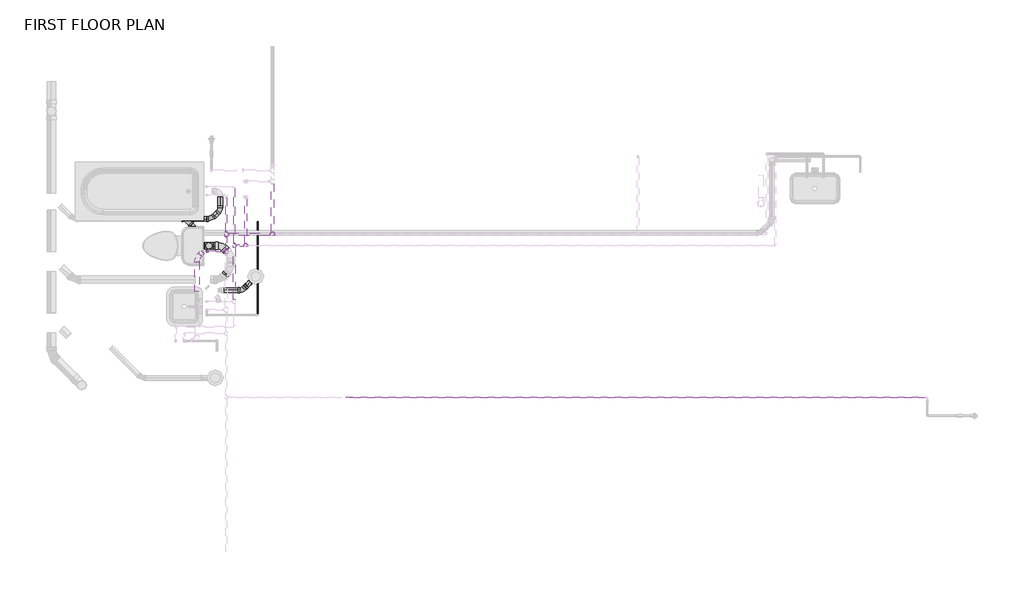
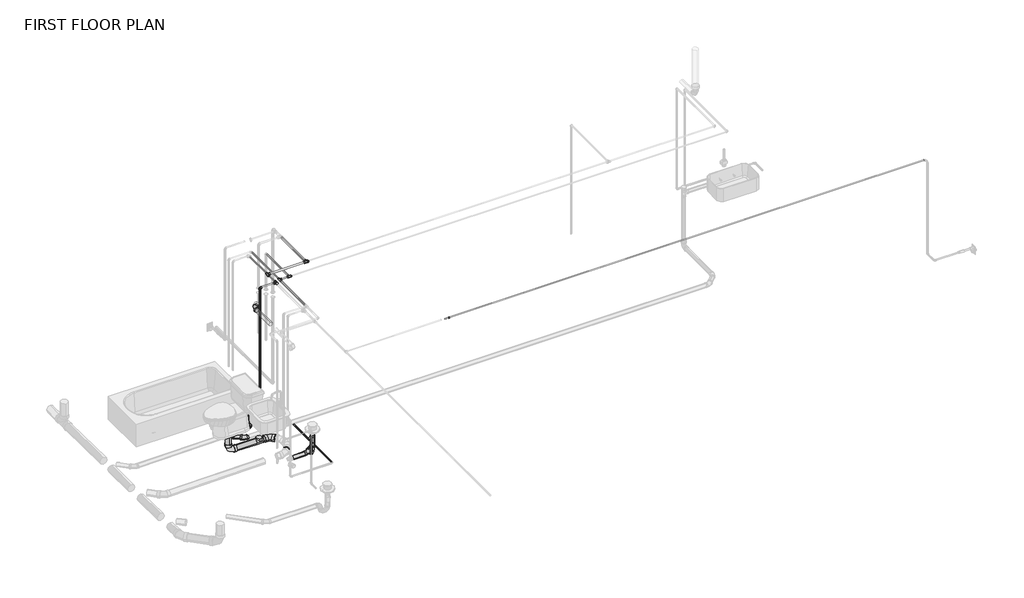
# One storey, part 3 of 5: 26 pipe segments, 25 pipe fittings.
"""IFC4 building model written with IfcOpenShell, lengths in millimetres."""

from ifc_helpers import new_model, si_unit, point, frame, frame_2d, origin, place, context, project, spatial, circle_curve, trimmed, segment, composite_curve, outline, extrude, transform, mapped, element, save
from components import bend_pvc_sch_40_dwv_standard_e97a4265, bend_pvc_sch_40_dwv_standard_846a7535, bend_pvc_sch_40_dwv_standard_24e7f7a5, bend_pvc_sch_40_dwv_standard_035f6e0a, bend_pvc_sch_40_dwv_standard_84cd9199, bend_pvc_sch_40_dwv_standard_a8c214d8, bend_pvc_sch_40_dwv_standard_9c01a1c7, coupling_generic_copper_k_c11501f2, ges_wye_45_deg_reducing_pvc_sch_40_dwv_standard_66a6b449, pipe_elbow_copper_k_feaaf02c, pipe_tee_copper_k_feafe2f1, pipe_tee_copper_k_ee363fbf, pipe_tee_copper_k_6c1f9b63, pipe_tee_copper_k_a7c92e0f, pipe_transition_copper_k_b4f16853, pipe_transition_copper_k_b63fd5dd, pipe_transition_copper_k_859ff352, standard_73d07651

model = new_model("IFC4")

# Units and contexts
model_context = context("Model", 3, world=origin())
ifc_project = project(units=[si_unit("LENGTHUNIT", "METRE", prefix="MILLI")], contexts=[model_context])

# Site, building, storey
site = spatial("IfcSite", under=ifc_project)
building = spatial("IfcBuilding", under=site)
storey = spatial("IfcBuildingStorey", under=building, Name="FIRST FLOOR PLAN", Elevation=0.0)

# Pipe fittings
placement = place(None, origin())
bend_pvc_sch_40_dwv_standard_shape = bend_pvc_sch_40_dwv_standard_e97a4265(model_context)
element("IfcPipeFitting", 1, ObjectType="Bend - PVC - Sch 40 - DWV : Standard", at=placement, inside=storey, context=model_context, shape_type="MappedRepresentation", body=[
    mapped(bend_pvc_sch_40_dwv_standard_shape, transform((-7700.2731156, 4419.0224693, -295.2395657), x_axis=(-0.9999422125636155, 1.120094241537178e-06, 0.010750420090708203), y_axis=(0.010750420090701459, -1.2042179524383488e-08, 0.9999422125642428), z_axis=(1.120158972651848e-06, 0.9999999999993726, 0.0))),
])
bend_pvc_sch_40_dwv_standard_2_shape = bend_pvc_sch_40_dwv_standard_846a7535(model_context)
element("IfcPipeFitting", 2, ObjectType="Bend - PVC - Sch 40 - DWV : Standard", at=placement, inside=storey, context=model_context, shape_type="MappedRepresentation", body=[
    mapped(bend_pvc_sch_40_dwv_standard_2_shape, transform((-7374.374464, 4262.7641737, 2055.9906219), x_axis=(-0.7071069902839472, -0.707106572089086, 0.0), y_axis=(0.7071065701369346, -0.7071069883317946, -7.430692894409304e-05), z_axis=(5.254291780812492e-05, -5.254294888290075e-05, 0.9999999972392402))),
])
bend_pvc_sch_40_dwv_standard_3_shape = bend_pvc_sch_40_dwv_standard_24e7f7a5(model_context)
element("IfcPipeFitting", 3, ObjectType="Bend - PVC - Sch 40 - DWV : Standard", at=placement, inside=storey, context=model_context, shape_type="MappedRepresentation", body=[
    mapped(bend_pvc_sch_40_dwv_standard_3_shape, transform((-7069.179854, 4886.8434835, -313.7948197), x_axis=(0.7070684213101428, 0.7070684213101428, 0.010416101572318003), y_axis=(-0.706976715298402, 0.7071447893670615, -0.01140924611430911), z_axis=(-0.015432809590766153, 0.0007031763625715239, 0.9998806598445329))),
])
bend_pvc_sch_40_dwv_standard_4_shape = bend_pvc_sch_40_dwv_standard_035f6e0a(model_context)
element("IfcPipeFitting", 4, ObjectType="Bend - PVC - Sch 40 - DWV : Standard", at=placement, inside=storey, context=model_context, shape_type="MappedRepresentation", body=[
    mapped(bend_pvc_sch_40_dwv_standard_4_shape, transform((-7186.5172749, 4769.5060626, -315.5317771), x_axis=(0.9999457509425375, 0.0, 0.010416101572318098), y_axis=(-4.7108400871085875e-05, 0.9999897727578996, 0.0045224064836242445), z_axis=(-0.010415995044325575, -0.004522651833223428, 0.9999355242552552))),
])
bend_pvc_sch_40_dwv_standard_5_shape = bend_pvc_sch_40_dwv_standard_84cd9199(model_context)
element("IfcPipeFitting", 5, ObjectType="Bend - PVC - Sch 40 - DWV : Standard", at=placement, inside=storey, context=model_context, shape_type="MappedRepresentation", body=[
    mapped(bend_pvc_sch_40_dwv_standard_5_shape, transform((-7346.2399141, 4590.6256439, -314.4174326), x_axis=(0.7069954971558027, -0.7069800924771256, 0.018344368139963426), y_axis=(0.7072180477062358, 0.7067576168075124, -0.018338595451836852), z_axis=(0.0, 0.02593877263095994, 0.9996635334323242))),
])
bend_pvc_sch_40_dwv_standard_6_shape = bend_pvc_sch_40_dwv_standard_a8c214d8(model_context)
element("IfcPipeFitting", 6, ObjectType="Bend - PVC - Sch 40 - DWV : Standard", at=placement, inside=storey, context=model_context, shape_type="MappedRepresentation", body=[
    mapped(bend_pvc_sch_40_dwv_standard_6_shape, transform((-7052.3304385, 4419.0218107, -302.1855563), x_axis=(-0.7070925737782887, 0.7071209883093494, 6.652743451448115e-08), y_axis=(-0.707042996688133, -0.7070145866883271, 0.014851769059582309), z_axis=(0.010502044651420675, 0.010501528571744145, 0.9998897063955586))),
])
bend_pvc_sch_40_dwv_standard_7_shape = bend_pvc_sch_40_dwv_standard_9c01a1c7(model_context)
element("IfcPipeFitting", 7, ObjectType="Bend - PVC - Sch 40 - DWV : Standard", at=placement, inside=storey, context=model_context, shape_type="MappedRepresentation", body=[
    mapped(bend_pvc_sch_40_dwv_standard_7_shape, transform((-6783.0539236, 3841.4516114, -300.1692535), x_axis=(0.9998117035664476, 0.0, 0.0194050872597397), y_axis=(0.00019323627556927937, 0.9999504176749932, -0.009956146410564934), z_axis=(-0.0194041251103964, 0.009958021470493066, 0.9997621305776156))),
])
coupling_generic_copper_k_shape = coupling_generic_copper_k_c11501f2(model_context)
element("IfcPipeFitting", 8, ObjectType="Coupling - Generic : Copper- K", at=placement, inside=storey, context=model_context, shape_type="MappedRepresentation", body=[
    mapped(coupling_generic_copper_k_shape, transform((-5363.4074987, 2442.6144205, 2298.2390728), x_axis=(1.0, 0.0, 0.0), y_axis=(0.0, 1.0, 0.0), z_axis=(0.0, 0.0, 1.0))),
])
ges_wye_45_deg_reducing_pvc_sch_40_dwv_standard_shape = ges_wye_45_deg_reducing_pvc_sch_40_dwv_standard_66a6b449(model_context)
element("IfcPipeFitting", 9, ObjectType="GES Wye 45 Deg Reducing - PVC - Sch 40 - DWV : Standard", at=placement, inside=storey, context=model_context, shape_type="MappedRepresentation", body=[
    mapped(ges_wye_45_deg_reducing_pvc_sch_40_dwv_standard_shape, transform((-7525.1242305, 4769.5060626, -319.0589329), x_axis=(0.9999457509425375, 0.0, 0.010416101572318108), y_axis=(0.00016174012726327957, 0.9998794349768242, -0.015527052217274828), z_axis=(-0.010414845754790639, 0.015527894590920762, 0.9998251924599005))),
])
pipe_elbow_copper_k_shape = pipe_elbow_copper_k_feaaf02c(model_context)
element("IfcPipeFitting", 10, ObjectType="Pipe Elbow : Copper- K", at=placement, inside=storey, context=model_context, shape_type="MappedRepresentation", body=[
    mapped(pipe_elbow_copper_k_shape, transform((-7245.3887487, 4345.7331459, 2298.2390728), x_axis=(-1.0, 0.0, 0.0), y_axis=(0.0, 0.0, -1.0), z_axis=(0.0, -1.0, 0.0))),
])
pipe_tee_copper_k_shape = pipe_tee_copper_k_feafe2f1(model_context)
element("IfcPipeFitting", 11, ObjectType="Pipe Tee : Copper- K", at=placement, inside=storey, context=model_context, shape_type="MappedRepresentation", body=[
    mapped(pipe_tee_copper_k_shape, transform((-6991.3887487, 4345.7331459, 2298.2390728), x_axis=(0.0, -1.0, 0.0), y_axis=(1.0, 0.0, 0.0), z_axis=(0.0, 0.0, 1.0))),
])
element("IfcPipeFitting", 12, ObjectType="Pipe Tee : Copper- K", at=placement, inside=storey, context=model_context, shape_type="MappedRepresentation", body=[
    mapped(pipe_tee_copper_k_shape, transform((-6991.3887487, 4569.6275273, 2298.2390728), x_axis=(0.0, -1.0, 0.0), y_axis=(-1.0, 0.0, 0.0), z_axis=(0.0, 0.0, -1.0))),
])
element("IfcPipeFitting", 13, ObjectType="Pipe Tee : Copper- K", at=placement, inside=storey, context=model_context, shape_type="MappedRepresentation", body=[
    mapped(pipe_tee_copper_k_shape, transform((-6388.3015833, 4569.6275273, 2298.2390728), x_axis=(1.0, 0.0, 0.0), y_axis=(0.0, -0.9999999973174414, 7.324696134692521e-05), z_axis=(0.0, -7.324696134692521e-05, -0.9999999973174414))),
])
pipe_tee_copper_k_2_shape = pipe_tee_copper_k_ee363fbf(model_context)
element("IfcPipeFitting", 14, ObjectType="Pipe Tee : Copper- K", at=placement, inside=storey, context=model_context, shape_type="MappedRepresentation", body=[
    mapped(pipe_tee_copper_k_2_shape, transform((-6888.1181278, 4421.9926405, 2263.2789062), x_axis=(0.0, 1.0, 0.0), y_axis=(-1.0, 0.0, 0.0), z_axis=(0.0, 0.0, 1.0))),
])
element("IfcPipeFitting", 15, ObjectType="Pipe Tee : Copper- K", at=placement, inside=storey, context=model_context, shape_type="MappedRepresentation", body=[
    mapped(pipe_tee_copper_k_2_shape, transform((-6737.6705726, 4421.9926405, 2263.2789062), x_axis=(1.0, 0.0, 0.0), y_axis=(0.0, -0.9999999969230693, 7.844655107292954e-05), z_axis=(0.0, -7.844655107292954e-05, -0.9999999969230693))),
])
pipe_tee_copper_k_3_shape = pipe_tee_copper_k_6c1f9b63(model_context)
element("IfcPipeFitting", 16, ObjectType="Pipe Tee : Copper- K", at=placement, inside=storey, context=model_context, shape_type="MappedRepresentation", body=[
    mapped(pipe_tee_copper_k_3_shape, transform((-6605.1527375, 4019.3657976, -247.6499889), x_axis=(9.811069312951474e-06, 9.81075241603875e-06, 0.9999999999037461), y_axis=(-1.0443093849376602e-05, -0.9999999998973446, 9.810854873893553e-06), z_axis=(0.9999999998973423, -1.0443190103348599e-05, -9.810966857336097e-06))),
])
pipe_tee_copper_k_4_shape = pipe_tee_copper_k_a7c92e0f(model_context)
element("IfcPipeFitting", 17, ObjectType="Pipe Tee : Copper- K", at=placement, inside=storey, context=model_context, shape_type="MappedRepresentation", body=[
    mapped(pipe_tee_copper_k_4_shape, transform((-7218.088762, 4419.0219292, -300.4235496), x_axis=(-0.9999422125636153, 1.1200942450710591e-06, 0.010750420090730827), y_axis=(-0.010750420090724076, 1.204859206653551e-08, -0.9999422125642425), z_axis=(-1.1201590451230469e-06, -0.9999999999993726, -6.412133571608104e-12))),
])
pipe_transition_copper_k_shape = pipe_transition_copper_k_b4f16853(model_context)
element("IfcPipeFitting", 18, ObjectType="Pipe Transition : Copper- K", at=placement, inside=storey, context=model_context, shape_type="MappedRepresentation", body=[
    mapped(pipe_transition_copper_k_shape, transform((-7021.5512487, 4345.7331459, 2298.2390728), x_axis=(-1.0, 0.0, 0.0), y_axis=(0.0, -1.0, 0.0), z_axis=(0.0, 0.0, 1.0))),
])
pipe_transition_copper_k_2_shape = pipe_transition_copper_k_b63fd5dd(model_context)
element("IfcPipeFitting", 19, ObjectType="Pipe Transition : Copper- K", at=placement, inside=storey, context=model_context, shape_type="MappedRepresentation", body=[
    mapped(pipe_transition_copper_k_2_shape, transform((-6991.3887487, 4375.8956459, 2298.2390728), x_axis=(0.0, 1.0, 0.0), y_axis=(-1.0, 0.0, 0.0), z_axis=(0.0, 0.0, 1.0))),
])
element("IfcPipeFitting", 20, ObjectType="Pipe Transition : Copper- K", at=placement, inside=storey, context=model_context, shape_type="MappedRepresentation", body=[
    mapped(pipe_transition_copper_k_2_shape, transform((-6991.3887487, 4599.7900273, 2298.2390728), x_axis=(0.0, 1.0, 0.0), y_axis=(-1.0, 0.0, 0.0), z_axis=(0.0, 0.0, 1.0))),
])
element("IfcPipeFitting", 21, ObjectType="Pipe Transition : Copper- K", at=placement, inside=storey, context=model_context, shape_type="MappedRepresentation", body=[
    mapped(pipe_transition_copper_k_2_shape, transform((-6991.3887487, 4539.4650273, 2298.2390728), x_axis=(0.0, -1.0, 0.0), y_axis=(1.0, 0.0, 0.0), z_axis=(0.0, 0.0, 1.0))),
])
element("IfcPipeFitting", 22, ObjectType="Pipe Transition : Copper- K", at=placement, inside=storey, context=model_context, shape_type="MappedRepresentation", body=[
    mapped(pipe_transition_copper_k_2_shape, transform((-6358.1390833, 4569.6275273, 2298.2390728), x_axis=(1.0, 0.0, 0.0), y_axis=(0.0, 0.9999999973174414, -7.324696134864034e-05), z_axis=(0.0, 7.324696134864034e-05, 0.9999999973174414))),
])
pipe_transition_copper_k_3_shape = pipe_transition_copper_k_859ff352(model_context)
element("IfcPipeFitting", 23, ObjectType="Pipe Transition : Copper- K", at=placement, inside=storey, context=model_context, shape_type="MappedRepresentation", body=[
    mapped(pipe_transition_copper_k_3_shape, transform((-6888.1181278, 4448.9801405, 2263.2789062), x_axis=(0.0, 1.0, 0.0), y_axis=(-1.0, 0.0, 0.0), z_axis=(0.0, 0.0, 1.0))),
])
element("IfcPipeFitting", 24, ObjectType="Pipe Transition : Copper- K", at=placement, inside=storey, context=model_context, shape_type="MappedRepresentation", body=[
    mapped(pipe_transition_copper_k_3_shape, transform((-6710.6830726, 4421.9926405, 2263.2789062), x_axis=(1.0, 0.0, 0.0), y_axis=(0.0, 0.9999999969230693, -7.844655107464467e-05), z_axis=(0.0, 7.844655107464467e-05, 0.9999999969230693))),
])
standard_shape = standard_73d07651(model_context)
element("IfcPipeFitting", 25, ObjectType="GES P TRAP PVC Sch 40 - DWV : Standard", at=placement, inside=storey, context=model_context, shape_type="MappedRepresentation", body=[
    mapped(standard_shape, transform((-6605.1537118, 4019.3648186, -299.8192081), x_axis=(-1.0013073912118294e-07, -3.212198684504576e-10, -0.999999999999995), y_axis=(-0.70707724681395, -0.707136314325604, 7.102731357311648e-08), z_axis=(-0.7071363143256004, 0.7070772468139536, 7.057895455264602e-08))),
])

# Pipe segments
element("IfcPipeSegment", 26, ObjectType="Copper", at=placement, inside=storey, context=model_context, shape_type="SweptSolid", body=[
    extrude(outline(composite_curve([segment(trimmed(circle_curve(frame_2d((0.0, 14.2875)), 14.2875), [point((0.0, 0.0))], [point((-14.2874999, 14.2875))], False, "CARTESIAN"), True, "CONTINUOUS"), segment(trimmed(circle_curve(frame_2d((0.0, 14.2875)), 14.2875), [point((-14.2874999, 14.2875))], [point((0.0, 28.575))], False, "CARTESIAN"), True, "CONTINUOUS"), segment(trimmed(circle_curve(frame_2d((0.0, 14.2875)), 14.2875), [point((0.0, 28.575))], [point((14.2875, 14.2875))], False, "CARTESIAN"), True, "CONTINUOUS"), segment(trimmed(circle_curve(frame_2d((0.0, 14.2875)), 14.2875), [point((14.2875, 14.2875))], [point((0.0, 0.0))], False, "CARTESIAN"), True, "CONTINUOUS")], self_intersect=False)), frame((-6402.5890833, 5230.0301405, 2298.1907004), z_axis=(0.0, -0.9999999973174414, 7.324696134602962e-05), x_axis=(0.0, -7.324696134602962e-05, -0.9999999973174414)), (0.0, 0.0, 1.0), 630.240115),
])
element("IfcPipeSegment", 27, ObjectType="Copper", at=placement, inside=storey, context=model_context, shape_type="SweptSolid", body=[
    extrude(outline(composite_curve([segment(trimmed(circle_curve(frame_2d((0.0, 11.1125)), 11.1125), [point((0.0, 0.0))], [point((-11.1124999, 11.1125))], False, "CARTESIAN"), True, "CONTINUOUS"), segment(trimmed(circle_curve(frame_2d((0.0, 11.1125)), 11.1125), [point((-11.1124999, 11.1125))], [point((0.0, 22.225))], False, "CARTESIAN"), True, "CONTINUOUS"), segment(trimmed(circle_curve(frame_2d((0.0, 11.1125)), 11.1125), [point((0.0, 22.225))], [point((11.1125, 11.1125))], False, "CARTESIAN"), True, "CONTINUOUS"), segment(trimmed(circle_curve(frame_2d((0.0, 11.1125)), 11.1125), [point((11.1125, 11.1125))], [point((0.0, 0.0))], False, "CARTESIAN"), True, "CONTINUOUS")], self_intersect=False)), frame((-6748.7830726, 5036.3567595, 2263.2306437), z_axis=(0.0, -0.9999999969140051, 7.856201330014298e-05), x_axis=(0.0, -7.856201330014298e-05, -0.9999999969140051)), (0.0, 0.0, 1.0), 587.3766208),
])
element("IfcPipeSegment", 28, ObjectType="Copper", at=placement, inside=storey, context=model_context, shape_type="SweptSolid", body=[
    extrude(outline(composite_curve([segment(trimmed(circle_curve(frame_2d((4345.7331459, 2298.2390728)), 11.1125), [point((4334.6206459, 2298.2390728))], [point((4345.7331459, 2309.3515728))], False, "CARTESIAN"), True, "CONTINUOUS"), segment(trimmed(circle_curve(frame_2d((4345.7331459, 2298.2390728)), 11.1125), [point((4345.7331459, 2309.3515728))], [point((4356.8456459, 2298.2390728))], False, "CARTESIAN"), True, "CONTINUOUS"), segment(trimmed(circle_curve(frame_2d((4345.7331459, 2298.2390728)), 11.1125), [point((4356.8456459, 2298.2390728))], [point((4345.7331459, 2287.1265728))], False, "CARTESIAN"), True, "CONTINUOUS"), segment(trimmed(circle_curve(frame_2d((4345.7331459, 2298.2390728)), 11.1125), [point((4345.7331459, 2287.1265728))], [point((4334.6206459, 2298.2390728))], False, "CARTESIAN"), True, "CONTINUOUS")], self_intersect=False)), frame((-7224.7512487, 0.0, 0.0), z_axis=(1.0, 0.0, 0.0), x_axis=(0.0, 1.0, 0.0)), (0.0, 0.0, 1.0), 196.05625),
])
element("IfcPipeSegment", 29, ObjectType="Copper", at=placement, inside=storey, context=model_context, shape_type="SweptSolid", body=[
    extrude(outline(composite_curve([segment(trimmed(circle_curve(frame_2d((-7245.3887487, 4345.7331459)), 11.1125), [point((-7234.2762487, 4345.7331459))], [point((-7245.3887487, 4334.6206459))], False, "CARTESIAN"), True, "CONTINUOUS"), segment(trimmed(circle_curve(frame_2d((-7245.3887487, 4345.7331459)), 11.1125), [point((-7245.3887487, 4334.6206459))], [point((-7256.5012487, 4345.7331459))], False, "CARTESIAN"), True, "CONTINUOUS"), segment(trimmed(circle_curve(frame_2d((-7245.3887487, 4345.7331459)), 11.1125), [point((-7256.5012487, 4345.7331459))], [point((-7245.3887487, 4356.8456459))], False, "CARTESIAN"), True, "CONTINUOUS"), segment(trimmed(circle_curve(frame_2d((-7245.3887487, 4345.7331459)), 11.1125), [point((-7245.3887487, 4356.8456459))], [point((-7234.2762487, 4345.7331459))], False, "CARTESIAN"), True, "CONTINUOUS")], self_intersect=False)), frame((0.0, 0.0, 485.2789063), z_axis=(0.0, 0.0, 1.0), x_axis=(1.0, 0.0, 0.0)), (0.0, 0.0, 1.0), 1792.3226666),
])
element("IfcPipeSegment", 30, ObjectType="Copper", at=placement, inside=storey, context=model_context, shape_type="SweptSolid", body=[
    extrude(outline(composite_curve([segment(trimmed(circle_curve(frame_2d((2298.2390728, -6991.3887487)), 7.9375), [point((2298.2390728, -6983.4512487))], [point((2306.1765728, -6991.3887487))], False, "CARTESIAN"), True, "CONTINUOUS"), segment(trimmed(circle_curve(frame_2d((2298.2390728, -6991.3887487)), 7.9375), [point((2306.1765728, -6991.3887487))], [point((2298.2390728, -6999.3262487))], False, "CARTESIAN"), True, "CONTINUOUS"), segment(trimmed(circle_curve(frame_2d((2298.2390728, -6991.3887487)), 7.9375), [point((2298.2390728, -6999.3262487))], [point((2290.3015728, -6991.3887487))], False, "CARTESIAN"), True, "CONTINUOUS"), segment(trimmed(circle_curve(frame_2d((2298.2390728, -6991.3887487)), 7.9375), [point((2290.3015728, -6991.3887487))], [point((2298.2390728, -6983.4512487))], False, "CARTESIAN"), True, "CONTINUOUS")], self_intersect=False)), frame((0.0, 4606.9337773, 0.0), z_axis=(0.0, 1.0, 0.0), x_axis=(0.0, 0.0, 1.0)), (0.0, 0.0, 1.0), 444.4431186),
])
element("IfcPipeSegment", 31, ObjectType="Copper", at=placement, inside=storey, context=model_context, shape_type="SweptSolid", body=[
    extrude(outline(composite_curve([segment(trimmed(circle_curve(frame_2d((2298.2390728, -6991.3887487)), 7.9375), [point((2298.2390728, -6983.4512487))], [point((2306.1765728, -6991.3887487))], False, "CARTESIAN"), True, "CONTINUOUS"), segment(trimmed(circle_curve(frame_2d((2298.2390728, -6991.3887487)), 7.9375), [point((2306.1765728, -6991.3887487))], [point((2298.2390728, -6999.3262487))], False, "CARTESIAN"), True, "CONTINUOUS"), segment(trimmed(circle_curve(frame_2d((2298.2390728, -6991.3887487)), 7.9375), [point((2298.2390728, -6999.3262487))], [point((2290.3015728, -6991.3887487))], False, "CARTESIAN"), True, "CONTINUOUS"), segment(trimmed(circle_curve(frame_2d((2298.2390728, -6991.3887487)), 7.9375), [point((2290.3015728, -6991.3887487))], [point((2298.2390728, -6983.4512487))], False, "CARTESIAN"), True, "CONTINUOUS")], self_intersect=False)), frame((0.0, 4383.0393959, 0.0), z_axis=(0.0, 1.0, 0.0), x_axis=(0.0, 0.0, 1.0)), (0.0, 0.0, 1.0), 149.2818814),
])
element("IfcPipeSegment", 32, ObjectType="Copper", at=placement, inside=storey, context=model_context, shape_type="SweptSolid", body=[
    extrude(outline(composite_curve([segment(trimmed(circle_curve(frame_2d((4569.6275273, 2298.2390728)), 14.2875), [point((4583.9150273, 2298.2390728))], [point((4569.6275273, 2283.9515728))], False, "CARTESIAN"), True, "CONTINUOUS"), segment(trimmed(circle_curve(frame_2d((4569.6275273, 2298.2390728)), 14.2875), [point((4569.6275273, 2283.9515728))], [point((4555.3400273, 2298.2390728))], False, "CARTESIAN"), True, "CONTINUOUS"), segment(trimmed(circle_curve(frame_2d((4569.6275273, 2298.2390728)), 14.2875), [point((4555.3400273, 2298.2390728))], [point((4569.6275273, 2312.5265728))], False, "CARTESIAN"), True, "CONTINUOUS"), segment(trimmed(circle_curve(frame_2d((4569.6275273, 2298.2390728)), 14.2875), [point((4569.6275273, 2312.5265728))], [point((4583.9150273, 2298.2390728))], False, "CARTESIAN"), True, "CONTINUOUS")], self_intersect=False)), frame((-6961.2262487, 0.0, 0.0), z_axis=(1.0, 0.0, 0.0), x_axis=(0.0, 1.0, 0.0)), (0.0, 0.0, 1.0), 542.7621654),
])
element("IfcPipeSegment", 33, ObjectType="Copper", at=placement, inside=storey, context=model_context, shape_type="SweptSolid", body=[
    extrude(outline(composite_curve([segment(trimmed(circle_curve(frame_2d((2263.2789062, -6888.1181278)), 11.1125), [point((2263.2789062, -6899.2306278))], [point((2252.1664062, -6888.1181278))], False, "CARTESIAN"), True, "CONTINUOUS"), segment(trimmed(circle_curve(frame_2d((2263.2789062, -6888.1181278)), 11.1125), [point((2252.1664062, -6888.1181278))], [point((2263.2789062, -6877.0056278))], False, "CARTESIAN"), True, "CONTINUOUS"), segment(trimmed(circle_curve(frame_2d((2263.2789062, -6888.1181278)), 11.1125), [point((2263.2789062, -6877.0056278))], [point((2274.3914062, -6888.1181278))], False, "CARTESIAN"), True, "CONTINUOUS"), segment(trimmed(circle_curve(frame_2d((2263.2789062, -6888.1181278)), 11.1125), [point((2274.3914062, -6888.1181278))], [point((2263.2789062, -6899.2306278))], False, "CARTESIAN"), True, "CONTINUOUS")], self_intersect=False)), frame((0.0, 3718.5516566, 0.0), z_axis=(0.0, 1.0, 0.0), x_axis=(0.0, 0.0, 1.0)), (0.0, 0.0, 1.0), 676.4534839),
])
element("IfcPipeSegment", 34, ObjectType="Copper", at=placement, inside=storey, context=model_context, shape_type="SweptSolid", body=[
    extrude(outline(composite_curve([segment(trimmed(circle_curve(frame_2d((2263.2789062, -6888.1181278)), 7.9375), [point((2263.2789062, -6896.0556278))], [point((2255.3414062, -6888.1181278))], False, "CARTESIAN"), True, "CONTINUOUS"), segment(trimmed(circle_curve(frame_2d((2263.2789062, -6888.1181278)), 7.9375), [point((2255.3414062, -6888.1181278))], [point((2263.2789062, -6880.1806278))], False, "CARTESIAN"), True, "CONTINUOUS"), segment(trimmed(circle_curve(frame_2d((2263.2789062, -6888.1181278)), 7.9375), [point((2263.2789062, -6880.1806278))], [point((2271.2164062, -6888.1181278))], False, "CARTESIAN"), True, "CONTINUOUS"), segment(trimmed(circle_curve(frame_2d((2263.2789062, -6888.1181278)), 7.9375), [point((2271.2164062, -6888.1181278))], [point((2263.2789062, -6896.0556278))], False, "CARTESIAN"), True, "CONTINUOUS")], self_intersect=False)), frame((0.0, 4454.5363905, 0.0), z_axis=(0.0, 1.0, 0.0), x_axis=(0.0, 0.0, 1.0)), (0.0, 0.0, 1.0), 718.1652661),
])
element("IfcPipeSegment", 35, ObjectType="Copper", at=placement, inside=storey, context=model_context, shape_type="SweptSolid", body=[
    extrude(outline(composite_curve([segment(trimmed(circle_curve(frame_2d((4421.9926405, 2263.2789062)), 11.1125), [point((4433.1051405, 2263.2789062))], [point((4421.9926405, 2252.1664062))], False, "CARTESIAN"), True, "CONTINUOUS"), segment(trimmed(circle_curve(frame_2d((4421.9926405, 2263.2789062)), 11.1125), [point((4421.9926405, 2252.1664062))], [point((4410.8801405, 2263.2789062))], False, "CARTESIAN"), True, "CONTINUOUS"), segment(trimmed(circle_curve(frame_2d((4421.9926405, 2263.2789062)), 11.1125), [point((4410.8801405, 2263.2789062))], [point((4421.9926405, 2274.3914062))], False, "CARTESIAN"), True, "CONTINUOUS"), segment(trimmed(circle_curve(frame_2d((4421.9926405, 2263.2789062)), 11.1125), [point((4421.9926405, 2274.3914062))], [point((4433.1051405, 2263.2789062))], False, "CARTESIAN"), True, "CONTINUOUS")], self_intersect=False)), frame((-6861.1306278, 0.0, 0.0), z_axis=(1.0, 0.0, 0.0), x_axis=(0.0, 1.0, 0.0)), (0.0, 0.0, 1.0), 96.4725552),
])
element("IfcPipeSegment", 36, ObjectType="Copper", at=placement, inside=storey, context=model_context, shape_type="SweptSolid", body=[
    extrude(outline(composite_curve([segment(trimmed(circle_curve(frame_2d((2442.6144205, 2298.2390728)), 7.9375), [point((2450.5519205, 2298.2390728))], [point((2442.6144205, 2290.3015728))], False, "CARTESIAN"), True, "CONTINUOUS"), segment(trimmed(circle_curve(frame_2d((2442.6144205, 2298.2390728)), 7.9375), [point((2442.6144205, 2290.3015728))], [point((2434.6769205, 2298.2390728))], False, "CARTESIAN"), True, "CONTINUOUS"), segment(trimmed(circle_curve(frame_2d((2442.6144205, 2298.2390728)), 7.9375), [point((2434.6769205, 2298.2390728))], [point((2442.6144205, 2306.1765728))], False, "CARTESIAN"), True, "CONTINUOUS"), segment(trimmed(circle_curve(frame_2d((2442.6144205, 2298.2390728)), 7.9375), [point((2442.6144205, 2306.1765728))], [point((2450.5519205, 2298.2390728))], False, "CARTESIAN"), True, "CONTINUOUS")], self_intersect=False)), frame((-5426.6979487, 0.0, 0.0), z_axis=(1.0, 0.0, 0.0), x_axis=(0.0, 1.0, 0.0)), (0.0, 0.0, 1.0), 7553.9092),
])
element("IfcPipeSegment", 37, ObjectType="Copper", at=placement, inside=storey, context=model_context, shape_type="SweptSolid", body=[
    extrude(outline(composite_curve([segment(trimmed(circle_curve(frame_2d((0.0, 7.9375)), 7.9375), [point((0.0, 15.875))], [point((7.9375, 7.9375))], False, "CARTESIAN"), True, "CONTINUOUS"), segment(trimmed(circle_curve(frame_2d((0.0, 7.9375)), 7.9375), [point((7.9375, 7.9375))], [point((0.0, 0.0))], False, "CARTESIAN"), True, "CONTINUOUS"), segment(trimmed(circle_curve(frame_2d((0.0, 7.9375)), 7.9375), [point((0.0, 0.0))], [point((-7.9375, 7.9375))], False, "CARTESIAN"), True, "CONTINUOUS"), segment(trimmed(circle_curve(frame_2d((0.0, 7.9375)), 7.9375), [point((-7.9375, 7.9375))], [point((0.0, 15.875))], False, "CARTESIAN"), True, "CONTINUOUS")], self_intersect=False)), frame((-6587.2115752, 3533.0196372, -346.471875), z_axis=(7.18787547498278e-05, 0.9999999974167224, 0.0), x_axis=(0.0, 0.0, 1.0)), (0.0, 0.0, 1.0), 1201.2531624),
])
element("IfcPipeSegment", 38, ObjectType="PVC - SAN/STORM", at=placement, inside=storey, context=model_context, shape_type="SweptSolid", body=[
    extrude(outline(composite_curve([segment(trimmed(circle_curve(frame_2d((0.0, 30.1625)), 30.1625), [point((0.0, 0.0))], [point((-30.1624999, 30.1625))], False, "CARTESIAN"), True, "CONTINUOUS"), segment(trimmed(circle_curve(frame_2d((0.0, 30.1625)), 30.1625), [point((-30.1624999, 30.1625))], [point((0.0, 60.325))], False, "CARTESIAN"), True, "CONTINUOUS"), segment(trimmed(circle_curve(frame_2d((0.0, 30.1625)), 30.1625), [point((0.0, 60.325))], [point((30.1625, 30.1625))], False, "CARTESIAN"), True, "CONTINUOUS"), segment(trimmed(circle_curve(frame_2d((0.0, 30.1625)), 30.1625), [point((30.1625, 30.1625))], [point((0.0, 0.0))], False, "CARTESIAN"), True, "CONTINUOUS")], self_intersect=False)), frame((-7099.3423887, 5058.6669772, -313.9795712), z_axis=(0.0, -0.9999992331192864, 0.0012384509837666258), x_axis=(0.0, -0.0012384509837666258, -0.9999992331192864)), (0.0, 0.0, 1.0), 119.4233982),
])
element("IfcPipeSegment", 39, ObjectType="PVC - SAN/STORM", at=placement, inside=storey, context=model_context, shape_type="SweptSolid", body=[
    extrude(outline(composite_curve([segment(trimmed(circle_curve(frame_2d((0.0, -44.45)), 44.45), [point((-44.4500001, -44.450003))], [point((-3e-06, 0.0))], False, "CARTESIAN"), True, "CONTINUOUS"), segment(trimmed(circle_curve(frame_2d((0.0, -44.45)), 44.45), [point((-3e-06, 0.0))], [point((44.45, -44.449997))], False, "CARTESIAN"), True, "CONTINUOUS"), segment(trimmed(circle_curve(frame_2d((0.0, -44.45)), 44.45), [point((44.45, -44.449997))], [point((2.9e-06, -88.9))], False, "CARTESIAN"), True, "CONTINUOUS"), segment(trimmed(circle_curve(frame_2d((0.0, -44.45)), 44.45), [point((2.9e-06, -88.9))], [point((-44.4500001, -44.450003))], False, "CARTESIAN"), True, "CONTINUOUS")], self_intersect=False)), frame((-6989.7936901, 4356.4825535, -346.6355622), z_axis=(-0.7070925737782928, 0.7071209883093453, 6.652743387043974e-08), x_axis=(0.7071209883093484, 0.7070925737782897, 6.652476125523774e-08)), (0.0, 0.0, 1.0), 7.4668947),
])
element("IfcPipeSegment", 40, ObjectType="PVC - SAN/STORM", at=placement, inside=storey, context=model_context, shape_type="SweptSolid", body=[
    extrude(outline(composite_curve([segment(trimmed(circle_curve(frame_2d((0.0, -44.4499999)), 44.45), [point((-0.0046315, -88.8999997))], [point((-44.4499997, -44.4453684))], False, "CARTESIAN"), True, "CONTINUOUS"), segment(trimmed(circle_curve(frame_2d((0.0, -44.4499999)), 44.45), [point((-44.4499997, -44.4453684))], [point((0.0046316, -2e-07))], False, "CARTESIAN"), True, "CONTINUOUS"), segment(trimmed(circle_curve(frame_2d((0.0, -44.4499999)), 44.45), [point((0.0046316, -2e-07))], [point((44.4499998, -44.4546315))], False, "CARTESIAN"), True, "CONTINUOUS"), segment(trimmed(circle_curve(frame_2d((0.0, -44.4499999)), 44.45), [point((44.4499998, -44.4546315))], [point((-0.0046315, -88.8999997))], False, "CARTESIAN"), True, "CONTINUOUS")], self_intersect=False)), frame((-7133.3011724, 4463.4718339, -301.3397358), z_axis=(-0.9999422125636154, 1.1200942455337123e-06, 0.010750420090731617), x_axis=(0.01075042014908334, 0.00010418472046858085, 0.9999422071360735)), (0.0, 0.0, 1.0), 29.2299895),
])
element("IfcPipeSegment", 41, ObjectType="PVC - SAN/STORM", at=placement, inside=storey, context=model_context, shape_type="SweptSolid", body=[
    extrude(outline(composite_curve([segment(trimmed(circle_curve(frame_2d((0.0, 30.1625)), 30.1625), [point((-30.1625, 30.1625))], [point((0.0, 60.325))], False, "CARTESIAN"), True, "CONTINUOUS"), segment(trimmed(circle_curve(frame_2d((0.0, 30.1625)), 30.1625), [point((0.0, 60.325))], [point((30.1625, 30.1625))], False, "CARTESIAN"), True, "CONTINUOUS"), segment(trimmed(circle_curve(frame_2d((0.0, 30.1625)), 30.1625), [point((30.1625, 30.1625))], [point((0.0, 0.0))], False, "CARTESIAN"), True, "CONTINUOUS"), segment(trimmed(circle_curve(frame_2d((0.0, 30.1625)), 30.1625), [point((0.0, 0.0))], [point((-30.1625, 30.1625))], False, "CARTESIAN"), True, "CONTINUOUS")], self_intersect=False)), frame((-6605.152317, 3989.2037181, -204.7866323), z_axis=(2.840046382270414e-05, 2.839954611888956e-05, 0.9999999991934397), x_axis=(0.9999999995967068, -8.065601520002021e-10, -2.840046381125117e-05)), (0.0, 0.0, 1.0), 30.1625),
])
element("IfcPipeSegment", 42, ObjectType="PVC - SAN/STORM", at=placement, inside=storey, context=model_context, shape_type="SweptSolid", body=[
    extrude(outline(composite_curve([segment(trimmed(circle_curve(frame_2d((0.0, 30.1625)), 30.1625), [point((-30.1625, 30.1625))], [point((0.0, 60.325))], False, "CARTESIAN"), True, "CONTINUOUS"), segment(trimmed(circle_curve(frame_2d((0.0, 30.1625)), 30.1625), [point((0.0, 60.325))], [point((30.1625, 30.1625))], False, "CARTESIAN"), True, "CONTINUOUS"), segment(trimmed(circle_curve(frame_2d((0.0, 30.1625)), 30.1625), [point((30.1625, 30.1625))], [point((0.0, 0.0))], False, "CARTESIAN"), True, "CONTINUOUS"), segment(trimmed(circle_curve(frame_2d((0.0, 30.1625)), 30.1625), [point((0.0, 0.0))], [point((-30.1625, 30.1625))], False, "CARTESIAN"), True, "CONTINUOUS")], self_intersect=False)), frame((-6605.1537166, 3989.2023186, -347.4439122), z_axis=(9.811069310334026e-06, 9.810752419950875e-06, 0.999999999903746), x_axis=(0.9999999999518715, -9.625367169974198e-11, -9.811069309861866e-06)), (0.0, 0.0, 1.0), 56.9317192),
])
element("IfcPipeSegment", 43, ObjectType="PVC - SAN/STORM", at=placement, inside=storey, context=model_context, shape_type="SweptSolid", body=[
    extrude(outline(composite_curve([segment(trimmed(circle_curve(frame_2d((-1e-07, -30.1625)), 30.1625), [point((30.1574259, -29.609269))], [point((0.5532309, -60.319926))], False, "CARTESIAN"), True, "CONTINUOUS"), segment(trimmed(circle_curve(frame_2d((-1e-07, -30.1625)), 30.1625), [point((0.5532309, -60.319926))], [point((-30.157426, -30.715731))], False, "CARTESIAN"), True, "CONTINUOUS"), segment(trimmed(circle_curve(frame_2d((-1e-07, -30.1625)), 30.1625), [point((-30.157426, -30.715731))], [point((-0.553231, -0.005074))], False, "CARTESIAN"), True, "CONTINUOUS"), segment(trimmed(circle_curve(frame_2d((-1e-07, -30.1625)), 30.1625), [point((-0.553231, -0.005074))], [point((30.1574259, -29.609269))], False, "CARTESIAN"), True, "CONTINUOUS")], self_intersect=False)), frame((-7445.0582056, 4690.2241605, -286.8291134), z_axis=(0.7069954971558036, -0.7069800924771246, 0.018344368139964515), x_axis=(0.7072180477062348, 0.7067576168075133, -0.01833859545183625)), (0.0, 0.0, 1.0), 87.3719653),
])
element("IfcPipeSegment", 44, ObjectType="PVC - SAN/STORM", at=placement, inside=storey, context=model_context, shape_type="SweptSolid", body=[
    extrude(outline(composite_curve([segment(trimmed(circle_curve(frame_2d((0.0, -44.45)), 44.45), [point((-0.0046315, -88.8999998))], [point((-44.4499997, -44.4453685))], False, "CARTESIAN"), True, "CONTINUOUS"), segment(trimmed(circle_curve(frame_2d((0.0, -44.45)), 44.45), [point((-44.4499997, -44.4453685))], [point((0.0046316, -3e-07))], False, "CARTESIAN"), True, "CONTINUOUS"), segment(trimmed(circle_curve(frame_2d((0.0, -44.45)), 44.45), [point((0.0046316, -3e-07))], [point((44.4499998, -44.4546316))], False, "CARTESIAN"), True, "CONTINUOUS"), segment(trimmed(circle_curve(frame_2d((0.0, -44.45)), 44.45), [point((44.4499998, -44.4546316))], [point((-0.0046315, -88.8999998))], False, "CARTESIAN"), True, "CONTINUOUS")], self_intersect=False)), frame((-7273.6480512, 4463.4719912, -299.8308607), z_axis=(-0.9999422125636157, 1.120094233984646e-06, 0.010750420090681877), x_axis=(0.010750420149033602, 0.00010418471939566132, 0.9999422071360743)), (0.0, 0.0, 1.0), 310.7495194),
])
element("IfcPipeSegment", 45, ObjectType="PVC - SAN/STORM", at=placement, inside=storey, context=model_context, shape_type="SweptSolid", body=[
    extrude(outline(composite_curve([segment(trimmed(circle_curve(frame_2d((0.0, -30.1625)), 30.1625), [point((0.0, 0.0))], [point((30.1625, -30.1625))], False, "CARTESIAN"), True, "CONTINUOUS"), segment(trimmed(circle_curve(frame_2d((0.0, -30.1625)), 30.1625), [point((30.1625, -30.1625))], [point((0.0, -60.325))], False, "CARTESIAN"), True, "CONTINUOUS"), segment(trimmed(circle_curve(frame_2d((0.0, -30.1625)), 30.1625), [point((0.0, -60.325))], [point((-30.1624999, -30.1625))], False, "CARTESIAN"), True, "CONTINUOUS"), segment(trimmed(circle_curve(frame_2d((0.0, -30.1625)), 30.1625), [point((-30.1624999, -30.1625))], [point((0.0, 0.0))], False, "CARTESIAN"), True, "CONTINUOUS")], self_intersect=False)), frame((-7404.5371321, 3820.6839213, 2055.9673937), z_axis=(3.8024587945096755e-07, 0.9999999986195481, 5.2542928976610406e-05), x_axis=(1.9980461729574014e-11, 5.2542928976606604e-05, -0.9999999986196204)), (0.0, 0.0, 1.0), 384.9302645),
])
element("IfcPipeSegment", 46, ObjectType="PVC - SAN/STORM", at=placement, inside=storey, context=model_context, shape_type="SweptSolid", body=[
    extrude(outline(composite_curve([segment(trimmed(circle_curve(frame_2d((0.0, -30.1625)), 30.1625), [point((-30.1625, -30.1625))], [point((0.0, 0.0))], False, "CARTESIAN"), True, "CONTINUOUS"), segment(trimmed(circle_curve(frame_2d((0.0, -30.1625)), 30.1625), [point((0.0, 0.0))], [point((30.1624999, -30.1625))], False, "CARTESIAN"), True, "CONTINUOUS"), segment(trimmed(circle_curve(frame_2d((0.0, -30.1625)), 30.1625), [point((30.1624999, -30.1625))], [point((0.0, -60.325))], False, "CARTESIAN"), True, "CONTINUOUS"), segment(trimmed(circle_curve(frame_2d((0.0, -30.1625)), 30.1625), [point((0.0, -60.325))], [point((-30.1625, -30.1625))], False, "CARTESIAN"), True, "CONTINUOUS")], self_intersect=False)), frame((-7333.9632995, 4303.1753143, 2025.8281219), z_axis=(0.7071067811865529, 0.7071067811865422, 0.0), x_axis=(0.7071067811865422, -0.7071067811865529, 0.0)), (0.0, 0.0, 1.0), 50.1755125),
])
element("IfcPipeSegment", 47, ObjectType="PVC - SAN/STORM", at=placement, inside=storey, context=model_context, shape_type="SweptSolid", body=[
    extrude(outline(composite_curve([segment(trimmed(circle_curve(frame_2d((0.0, 44.45)), 44.45), [point((-44.45, 44.45))], [point((0.0, 88.9))], False, "CARTESIAN"), True, "CONTINUOUS"), segment(trimmed(circle_curve(frame_2d((0.0, 44.45)), 44.45), [point((0.0, 88.9))], [point((44.45, 44.45))], False, "CARTESIAN"), True, "CONTINUOUS"), segment(trimmed(circle_curve(frame_2d((0.0, 44.45)), 44.45), [point((44.45, 44.45))], [point((0.0, 0.0))], False, "CARTESIAN"), True, "CONTINUOUS"), segment(trimmed(circle_curve(frame_2d((0.0, 44.45)), 44.45), [point((0.0, 0.0))], [point((-44.45, 44.45))], False, "CARTESIAN"), True, "CONTINUOUS")], self_intersect=False)), frame((-7700.2731156, 4374.5724693, -179.3388435), z_axis=(-1.4254388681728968e-05, 1.1746343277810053e-05, 0.999999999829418), x_axis=(0.9999999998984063, 1.6743761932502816e-10, 1.4254388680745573e-05)), (0.0, 0.0, 1.0), 215.8391623),
])
element("IfcPipeSegment", 48, ObjectType="PVC - SAN/STORM", at=placement, inside=storey, context=model_context, shape_type="SweptSolid", body=[
    extrude(outline(composite_curve([segment(trimmed(circle_curve(frame_2d((-1e-07, -30.1625)), 30.1625), [point((-30.1608638, -29.8483414))], [point((0.3141586, -0.0016361))], False, "CARTESIAN"), True, "CONTINUOUS"), segment(trimmed(circle_curve(frame_2d((-1e-07, -30.1625)), 30.1625), [point((0.3141586, -0.0016361))], [point((30.1608638, -30.4766586))], False, "CARTESIAN"), True, "CONTINUOUS"), segment(trimmed(circle_curve(frame_2d((-1e-07, -30.1625)), 30.1625), [point((30.1608638, -30.4766586))], [point((-0.3141586, -60.3233639))], False, "CARTESIAN"), True, "CONTINUOUS"), segment(trimmed(circle_curve(frame_2d((-1e-07, -30.1625)), 30.1625), [point((-0.3141586, -60.3233639))], [point((-30.1608638, -29.8483414))], False, "CARTESIAN"), True, "CONTINUOUS")], self_intersect=False)), frame((-7146.1083771, 4810.3592478, -345.0873116), z_axis=(0.7070684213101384, 0.7070684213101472, 0.010416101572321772), x_axis=(0.7071451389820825, -0.7069917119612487, -0.010414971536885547)), (0.0, 0.0, 1.0), 56.3990629),
])
element("IfcPipeSegment", 49, ObjectType="PVC - SAN/STORM", at=placement, inside=storey, context=model_context, shape_type="SweptSolid", body=[
    extrude(outline(composite_curve([segment(trimmed(circle_curve(frame_2d((0.0, -30.1625)), 30.1625), [point((0.0, 0.0))], [point((30.1625, -30.1625))], False, "CARTESIAN"), True, "CONTINUOUS"), segment(trimmed(circle_curve(frame_2d((0.0, -30.1625)), 30.1625), [point((30.1625, -30.1625))], [point((0.0, -60.325))], False, "CARTESIAN"), True, "CONTINUOUS"), segment(trimmed(circle_curve(frame_2d((0.0, -30.1625)), 30.1625), [point((0.0, -60.325))], [point((-30.1625, -30.1625))], False, "CARTESIAN"), True, "CONTINUOUS"), segment(trimmed(circle_curve(frame_2d((0.0, -30.1625)), 30.1625), [point((-30.1625, -30.1625))], [point((0.0, 0.0))], False, "CARTESIAN"), True, "CONTINUOUS")], self_intersect=False)), frame((-7406.5047284, 4799.6685626, -317.823313), z_axis=(0.9999457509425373, 0.0, 0.01041610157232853), x_axis=(0.01041610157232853, 0.0, -0.9999457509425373)), (0.0, 0.0, 1.0), 162.8493882),
])
element("IfcPipeSegment", 50, ObjectType="PVC - SAN/STORM", at=placement, inside=storey, context=model_context, shape_type="SweptSolid", body=[
    extrude(outline(composite_curve([segment(trimmed(circle_curve(frame_2d((0.0, -44.45)), 44.45), [point((-44.4475889, -43.9870294))], [point((0.4629705, -0.0024111))], False, "CARTESIAN"), True, "CONTINUOUS"), segment(trimmed(circle_curve(frame_2d((0.0, -44.45)), 44.45), [point((0.4629705, -0.0024111))], [point((44.4475889, -44.9129706))], False, "CARTESIAN"), True, "CONTINUOUS"), segment(trimmed(circle_curve(frame_2d((0.0, -44.45)), 44.45), [point((44.4475889, -44.9129706))], [point((-0.4629706, -88.8975889))], False, "CARTESIAN"), True, "CONTINUOUS"), segment(trimmed(circle_curve(frame_2d((0.0, -44.45)), 44.45), [point((-0.4629706, -88.8975889))], [point((-44.4475889, -43.9870294))], False, "CARTESIAN"), True, "CONTINUOUS")], self_intersect=False)), frame((-7011.0205959, 4036.914323, -349.7058403), z_axis=(0.7070684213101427, 0.707068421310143, 0.010416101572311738), x_axis=(0.7071451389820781, -0.7069917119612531, -0.01041497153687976)), (0.0, 0.0, 1.0), 28.4516132),
])
element("IfcPipeSegment", 51, ObjectType="PVC - SAN/STORM", at=placement, inside=storey, context=model_context, shape_type="SweptSolid", body=[
    extrude(outline(composite_curve([segment(trimmed(circle_curve(frame_2d((0.0, -30.1625)), 30.1625), [point((0.0, 0.0))], [point((30.1625, -30.1625))], False, "CARTESIAN"), True, "CONTINUOUS"), segment(trimmed(circle_curve(frame_2d((0.0, -30.1625)), 30.1625), [point((30.1625, -30.1625))], [point((0.0, -60.325))], False, "CARTESIAN"), True, "CONTINUOUS"), segment(trimmed(circle_curve(frame_2d((0.0, -30.1625)), 30.1625), [point((0.0, -60.325))], [point((-30.1625, -30.1625))], False, "CARTESIAN"), True, "CONTINUOUS"), segment(trimmed(circle_curve(frame_2d((0.0, -30.1625)), 30.1625), [point((-30.1625, -30.1625))], [point((0.0, 0.0))], False, "CARTESIAN"), True, "CONTINUOUS")], self_intersect=False)), frame((-7022.7034286, 3871.6141114, -304.8205489), z_axis=(0.9998117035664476, 0.0, 0.01940508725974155), x_axis=(0.01940508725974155, 0.0, -0.9998117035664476)), (0.0, 0.0, 1.0), 187.2944386),
])

save(model, "model.ifc")
